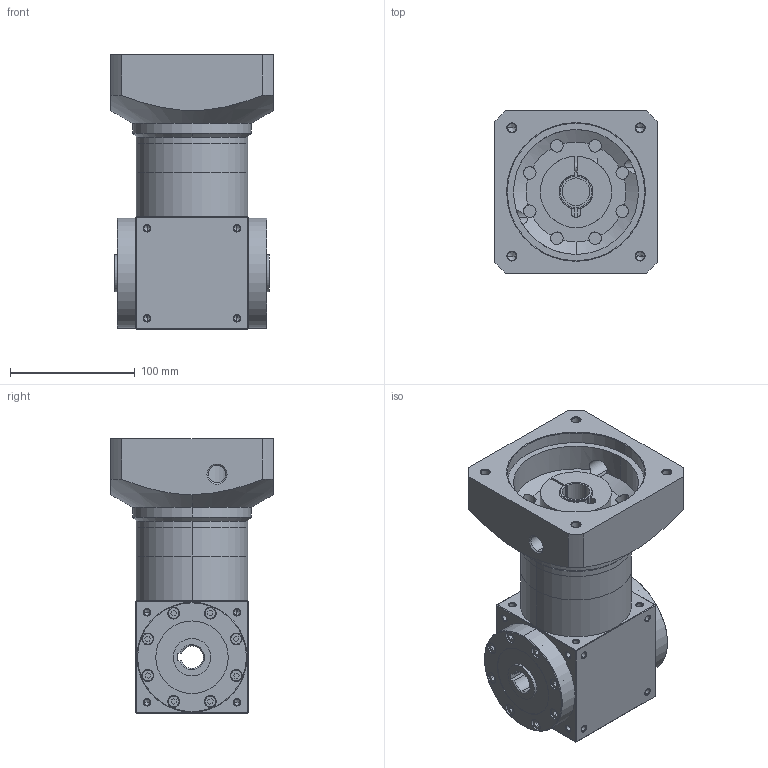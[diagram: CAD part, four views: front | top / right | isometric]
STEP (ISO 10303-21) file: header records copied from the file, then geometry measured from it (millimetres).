
FILE_DESCRIPTION (( 'STEP AP203' ), '1' );
FILE_NAME ('AT090-FH-L2-22-110-145M8.STEP', '2025-08-13T03:50:12', ( 'Windows User' ), ( 'P R C' ), 'SwSTEP 2.0', 'SolidWorks 2016', '' );
FILE_SCHEMA (( 'CONFIG_CONTROL_DESIGN' ));
Length unit declared in the file: millimetre
Products named in the file (7): AT090-蛌褒眊极-謂-怀堤; AT090-蛌倰怀堤楊擘; AT090-单级齿圈; AT090-输入法兰-F-110-M8-145; 输入胀套-27; 输入轴套-24-22; AT090-FH-L2-22-110-145M8
Assembly tree (6 placements, depth 2):
  AT090-FH-L2-22-110-145M8
    AT090-蛌褒眊极-謂-怀堤
    AT090-蛌倰怀堤楊擘
    AT090-单级齿圈
    AT090-输入法兰-F-110-M8-145
    输入胀套-27
    输入轴套-24-22
Bounding box: 130 x 130 x 220 mm (x, y, z)
Volume: 1555341.2 mm3; surface area: 255501.4 mm2
Topology: 6 solids, 18 shells, 1444 faces, 3695 edges, 2330 vertices
Faces by surface type: plane 735, cylinder 313, cone 235, bspline 161
Entity records: 50904 total; most frequent: CARTESIAN_POINT 16738, ORIENTED_EDGE 7206, DIRECTION 6339, EDGE_CURVE 3603, LINE 2361, VECTOR 2361, VERTEX_POINT 2330, AXIS2_PLACEMENT_3D 1989
